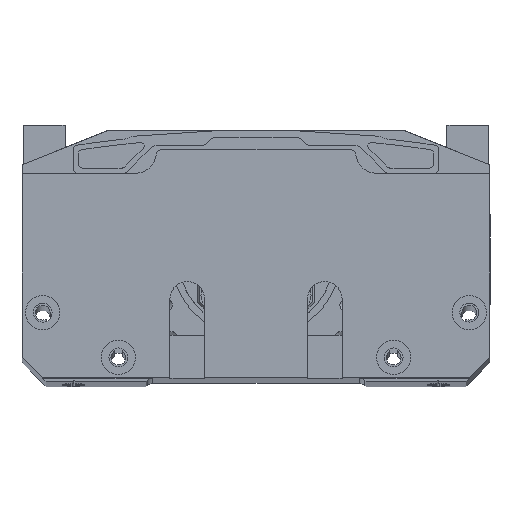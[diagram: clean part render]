
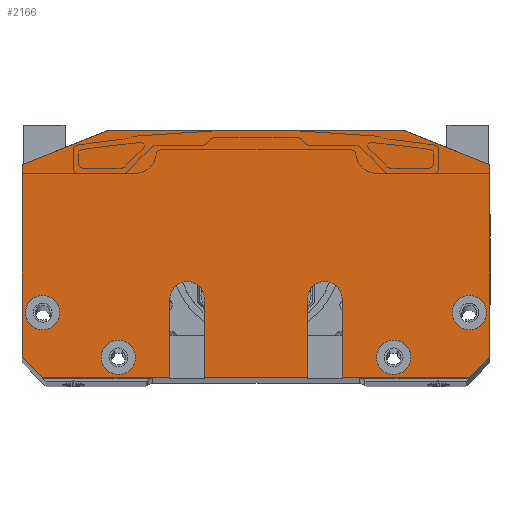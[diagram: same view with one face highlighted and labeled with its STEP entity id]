
A CAD part, top view. The second image highlights one B-rep face of the part: STEP entity #2166.
In plain terms, the highlighted planar face has unit normal (0, 0, 1).
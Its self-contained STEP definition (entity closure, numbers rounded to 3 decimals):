
#2166=ADVANCED_FACE('9',(#3223,#3224,#3225,#3226,#3227),#2811,.T.);
#2811=PLANE('',#18393);
#3223=FACE_BOUND('',#4227,.T.);
#3224=FACE_BOUND('',#4228,.T.);
#3225=FACE_BOUND('',#4229,.T.);
#3226=FACE_BOUND('',#4230,.T.);
#3227=FACE_BOUND('',#4231,.T.);
#4227=EDGE_LOOP('',(#8532,#8533,#8534,#8535,#8536,#8537,#8538,#8539,#8540,
#8541,#8542,#8543,#8544,#8545,#8546,#8547));
#4228=EDGE_LOOP('',(#8548));
#4229=EDGE_LOOP('',(#8549));
#4230=EDGE_LOOP('',(#8550));
#4231=EDGE_LOOP('',(#8551));
#5359=CIRCLE('',#18352,5.);
#5361=CIRCLE('',#18357,5.);
#5379=CIRCLE('',#18389,5.);
#5380=CIRCLE('',#18390,5.);
#5381=CIRCLE('',#18391,5.);
#5382=CIRCLE('',#18392,5.);
#8532=ORIENTED_EDGE('',*,*,#13918,.T.);
#8533=ORIENTED_EDGE('',*,*,#13920,.T.);
#8534=ORIENTED_EDGE('',*,*,#13914,.T.);
#8535=ORIENTED_EDGE('',*,*,#13020,.F.);
#8536=ORIENTED_EDGE('',*,*,#13926,.T.);
#8537=ORIENTED_EDGE('',*,*,#13928,.T.);
#8538=ORIENTED_EDGE('',*,*,#13922,.T.);
#8539=ORIENTED_EDGE('',*,*,#13017,.F.);
#8540=ORIENTED_EDGE('',*,*,#13034,.T.);
#8541=ORIENTED_EDGE('',*,*,#13048,.F.);
#8542=ORIENTED_EDGE('',*,*,#13937,.T.);
#8543=ORIENTED_EDGE('',*,*,#13959,.F.);
#8544=ORIENTED_EDGE('',*,*,#13940,.T.);
#8545=ORIENTED_EDGE('',*,*,#12962,.F.);
#8546=ORIENTED_EDGE('',*,*,#13005,.T.);
#8547=ORIENTED_EDGE('',*,*,#13023,.F.);
#8548=ORIENTED_EDGE('',*,*,#13960,.F.);
#8549=ORIENTED_EDGE('',*,*,#13961,.F.);
#8550=ORIENTED_EDGE('',*,*,#13962,.F.);
#8551=ORIENTED_EDGE('',*,*,#13963,.F.);
#11123=VERTEX_POINT('',#25943);
#11124=VERTEX_POINT('',#25945);
#11152=VERTEX_POINT('',#26024);
#11158=VERTEX_POINT('',#26045);
#11159=VERTEX_POINT('',#26047);
#11160=VERTEX_POINT('',#26050);
#11161=VERTEX_POINT('',#26052);
#11162=VERTEX_POINT('',#26055);
#11169=VERTEX_POINT('',#26076);
#11179=VERTEX_POINT('',#26102);
#11718=VERTEX_POINT('',#29671);
#11720=VERTEX_POINT('',#29677);
#11722=VERTEX_POINT('',#29686);
#11724=VERTEX_POINT('',#29692);
#11733=VERTEX_POINT('',#29717);
#11735=VERTEX_POINT('',#29723);
#11745=VERTEX_POINT('',#29763);
#11746=VERTEX_POINT('',#29765);
#11747=VERTEX_POINT('',#29767);
#11748=VERTEX_POINT('',#29769);
#12962=EDGE_CURVE('',#11123,#11124,#15087,.T.);
#13005=EDGE_CURVE('',#11123,#11152,#15120,.T.);
#13017=EDGE_CURVE('',#11158,#11159,#15131,.T.);
#13020=EDGE_CURVE('',#11160,#11161,#15134,.T.);
#13023=EDGE_CURVE('',#11162,#11152,#15137,.T.);
#13034=EDGE_CURVE('',#11158,#11169,#15147,.T.);
#13048=EDGE_CURVE('',#11179,#11169,#15159,.T.);
#13914=EDGE_CURVE('',#11718,#11161,#15586,.T.);
#13918=EDGE_CURVE('',#11162,#11720,#15590,.T.);
#13920=EDGE_CURVE('',#11720,#11718,#5359,.T.);
#13922=EDGE_CURVE('',#11722,#11159,#15592,.T.);
#13926=EDGE_CURVE('',#11160,#11724,#15596,.T.);
#13928=EDGE_CURVE('',#11724,#11722,#5361,.T.);
#13937=EDGE_CURVE('',#11179,#11733,#15601,.T.);
#13940=EDGE_CURVE('',#11735,#11124,#15604,.T.);
#13959=EDGE_CURVE('',#11735,#11733,#15610,.T.);
#13960=EDGE_CURVE('',#11745,#11745,#5379,.T.);
#13961=EDGE_CURVE('',#11746,#11746,#5380,.T.);
#13962=EDGE_CURVE('',#11747,#11747,#5381,.T.);
#13963=EDGE_CURVE('',#11748,#11748,#5382,.T.);
#15087=LINE('',#25944,#16359);
#15120=LINE('',#26025,#16392);
#15131=LINE('',#26046,#16403);
#15134=LINE('',#26051,#16406);
#15137=LINE('',#26056,#16409);
#15147=LINE('',#26077,#16419);
#15159=LINE('',#26103,#16431);
#15586=LINE('',#29670,#16858);
#15590=LINE('',#29678,#16862);
#15592=LINE('',#29685,#16864);
#15596=LINE('',#29693,#16868);
#15601=LINE('',#29716,#16873);
#15604=LINE('',#29722,#16876);
#15610=LINE('',#29761,#16882);
#16359=VECTOR('',#20161,1.);
#16392=VECTOR('',#20232,1.);
#16403=VECTOR('',#20251,1.);
#16406=VECTOR('',#20254,1.);
#16409=VECTOR('',#20257,1.);
#16419=VECTOR('',#20275,1.);
#16431=VECTOR('',#20295,1.);
#16858=VECTOR('',#22054,1.);
#16862=VECTOR('',#22060,1.);
#16864=VECTOR('',#22070,1.);
#16868=VECTOR('',#22076,1.);
#16873=VECTOR('',#22101,1.);
#16876=VECTOR('',#22106,1.);
#16882=VECTOR('',#22158,1.);
#18352=AXIS2_PLACEMENT_3D('',#29681,#22065,#22066);
#18357=AXIS2_PLACEMENT_3D('',#29696,#22081,#22082);
#18389=AXIS2_PLACEMENT_3D('',#29762,#22159,#22160);
#18390=AXIS2_PLACEMENT_3D('',#29764,#22161,#22162);
#18391=AXIS2_PLACEMENT_3D('',#29766,#22163,#22164);
#18392=AXIS2_PLACEMENT_3D('',#29768,#22165,#22166);
#18393=AXIS2_PLACEMENT_3D('',#29770,#22167,#22168);
#20161=DIRECTION('',(0.,1.,0.));
#20232=DIRECTION('',(0.707,-0.707,0.));
#20251=DIRECTION('',(-1.,0.,0.));
#20254=DIRECTION('',(-1.,0.,0.));
#20257=DIRECTION('',(-1.,0.,0.));
#20275=DIRECTION('',(0.707,0.707,0.));
#20295=DIRECTION('',(0.,-1.,0.));
#22054=DIRECTION('',(0.,-1.,0.));
#22060=DIRECTION('',(0.,1.,0.));
#22065=DIRECTION('',(0.,0.,-1.));
#22066=DIRECTION('',(1.,0.,0.));
#22070=DIRECTION('',(0.,-1.,0.));
#22076=DIRECTION('',(0.,1.,0.));
#22081=DIRECTION('',(0.,0.,-1.));
#22082=DIRECTION('',(-1.,0.,0.));
#22101=DIRECTION('',(-0.928,0.371,0.));
#22106=DIRECTION('',(-0.928,-0.371,0.));
#22158=DIRECTION('',(1.,0.,0.));
#22159=DIRECTION('',(0.,0.,1.));
#22160=DIRECTION('',(1.,0.,0.));
#22161=DIRECTION('',(0.,0.,1.));
#22162=DIRECTION('',(1.,0.,0.));
#22163=DIRECTION('',(0.,0.,1.));
#22164=DIRECTION('',(1.,0.,0.));
#22165=DIRECTION('',(0.,0.,1.));
#22166=DIRECTION('',(1.,0.,0.));
#22167=DIRECTION('',(0.,0.,1.));
#22168=DIRECTION('',(-1.,0.,0.));
#25943=CARTESIAN_POINT('',(-68.,6.,382.));
#25944=CARTESIAN_POINT('',(-68.,0.,382.));
#25945=CARTESIAN_POINT('',(-68.,62.,382.));
#26024=CARTESIAN_POINT('',(-62.,0.,382.));
#26025=CARTESIAN_POINT('',(-49.,-13.,382.));
#26045=CARTESIAN_POINT('',(62.,0.,382.));
#26046=CARTESIAN_POINT('',(68.,0.,382.));
#26047=CARTESIAN_POINT('',(25.,0.,382.));
#26050=CARTESIAN_POINT('',(15.,0.,382.));
#26051=CARTESIAN_POINT('',(68.,0.,382.));
#26052=CARTESIAN_POINT('',(-15.,0.,382.));
#26055=CARTESIAN_POINT('',(-25.,0.,382.));
#26056=CARTESIAN_POINT('',(68.,0.,382.));
#26076=CARTESIAN_POINT('',(68.,6.,382.));
#26077=CARTESIAN_POINT('',(49.,-13.,382.));
#26102=CARTESIAN_POINT('',(68.,62.,382.));
#26103=CARTESIAN_POINT('',(68.,0.,382.));
#29670=CARTESIAN_POINT('',(-15.,23.,382.));
#29671=CARTESIAN_POINT('',(-15.,23.,382.));
#29677=CARTESIAN_POINT('',(-25.,23.,382.));
#29678=CARTESIAN_POINT('',(-25.,23.,382.));
#29681=CARTESIAN_POINT('',(-20.,23.,382.));
#29685=CARTESIAN_POINT('',(25.,23.,382.));
#29686=CARTESIAN_POINT('',(25.,23.,382.));
#29692=CARTESIAN_POINT('',(15.,23.,382.));
#29693=CARTESIAN_POINT('',(15.,23.,382.));
#29696=CARTESIAN_POINT('',(20.,23.,382.));
#29716=CARTESIAN_POINT('',(18.345,81.862,382.));
#29717=CARTESIAN_POINT('',(43.,72.,382.));
#29722=CARTESIAN_POINT('',(-18.345,81.862,382.));
#29723=CARTESIAN_POINT('',(-43.,72.,382.));
#29761=CARTESIAN_POINT('',(68.,72.,382.));
#29762=CARTESIAN_POINT('',(-62.,19.,382.));
#29763=CARTESIAN_POINT('',(-57.,19.,382.));
#29764=CARTESIAN_POINT('',(62.,19.,382.));
#29765=CARTESIAN_POINT('',(67.,19.,382.));
#29766=CARTESIAN_POINT('',(-40.,6.,382.));
#29767=CARTESIAN_POINT('',(-35.,6.,382.));
#29768=CARTESIAN_POINT('',(40.,6.,382.));
#29769=CARTESIAN_POINT('',(45.,6.,382.));
#29770=CARTESIAN_POINT('',(0.,36.,382.));
